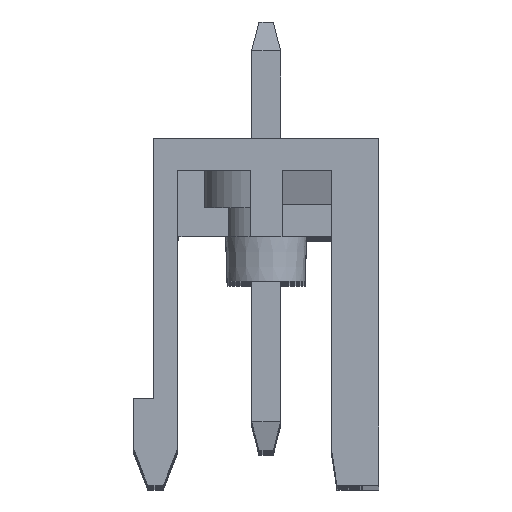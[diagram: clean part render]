
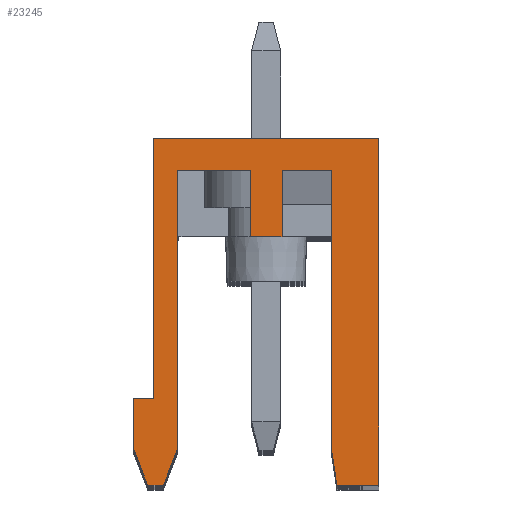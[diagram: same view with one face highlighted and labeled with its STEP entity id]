
A CAD part, top view. The second image highlights one B-rep face of the part: STEP entity #23245.
In plain terms, the highlighted planar face has unit normal (0, 0, 1).
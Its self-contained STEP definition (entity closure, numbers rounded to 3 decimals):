
#40 = EDGE_CURVE ( 'NONE', #36536, #26449, #12586, .T. ) ;
#225 = CARTESIAN_POINT ( 'NONE',  ( 2.25, 1.3, 96.52 ) ) ;
#302 = LINE ( 'NONE', #7707, #20076 ) ;
#471 = DIRECTION ( 'NONE',  ( 0.152, -0.988, 0. ) ) ;
#695 = VERTEX_POINT ( 'NONE', #18664 ) ;
#1106 = DIRECTION ( 'NONE',  ( -0.359, -0.933, 0. ) ) ;
#1792 = DIRECTION ( 'NONE',  ( 0., -1., 0. ) ) ;
#2024 = ORIENTED_EDGE ( 'NONE', *, *, #40, .T. ) ;
#2182 = CARTESIAN_POINT ( 'NONE',  ( -4.1, 0., 96.52 ) ) ;
#2399 = DIRECTION ( 'NONE',  ( 1., 0., 0. ) ) ;
#2482 = DIRECTION ( 'NONE',  ( 0., 1., 0. ) ) ;
#2691 = EDGE_CURVE ( 'NONE', #23012, #2864, #9895, .T. ) ;
#2864 = VERTEX_POINT ( 'NONE', #23689 ) ;
#3789 = ORIENTED_EDGE ( 'NONE', *, *, #33529, .F. ) ;
#3827 = CARTESIAN_POINT ( 'NONE',  ( 3.9, 12., 96.52 ) ) ;
#4197 = CARTESIAN_POINT ( 'NONE',  ( -4.1, 0., 96.52 ) ) ;
#5590 = LINE ( 'NONE', #15665, #36779 ) ;
#5631 = DIRECTION ( 'NONE',  ( 0., -1., 0. ) ) ;
#5689 = VECTOR ( 'NONE', #1106, 1000. ) ;
#5735 = VERTEX_POINT ( 'NONE', #14338 ) ;
#6214 = ORIENTED_EDGE ( 'NONE', *, *, #13710, .F. ) ;
#6219 = ORIENTED_EDGE ( 'NONE', *, *, #39183, .F. ) ;
#7013 = LINE ( 'NONE', #47021, #30613 ) ;
#7023 = ORIENTED_EDGE ( 'NONE', *, *, #43722, .T. ) ;
#7031 = ORIENTED_EDGE ( 'NONE', *, *, #47349, .T. ) ;
#7239 = DIRECTION ( 'NONE',  ( 1., 0., 0. ) ) ;
#7566 = PLANE ( 'NONE',  #46377 ) ;
#7707 = CARTESIAN_POINT ( 'NONE',  ( 2.45, 0., 96.52 ) ) ;
#7799 = CARTESIAN_POINT ( 'NONE',  ( -10.2, 16.267, 96.52 ) ) ;
#7801 = LINE ( 'NONE', #47099, #45058 ) ;
#7925 = ORIENTED_EDGE ( 'NONE', *, *, #11339, .F. ) ;
#8828 = VECTOR ( 'NONE', #2399, 1000. ) ;
#8916 = VERTEX_POINT ( 'NONE', #4197 ) ;
#8921 = ORIENTED_EDGE ( 'NONE', *, *, #46867, .T. ) ;
#9366 = DIRECTION ( 'NONE',  ( 0., 1., 0. ) ) ;
#9834 = CARTESIAN_POINT ( 'NONE',  ( 3.9, 0., 96.52 ) ) ;
#9894 = CARTESIAN_POINT ( 'NONE',  ( 2.45, 0., 96.52 ) ) ;
#9895 = LINE ( 'NONE', #10129, #31412 ) ;
#10129 = CARTESIAN_POINT ( 'NONE',  ( 0.55, 8.6, 96.52 ) ) ;
#10459 = VECTOR ( 'NONE', #16690, 1000. ) ;
#10744 = CARTESIAN_POINT ( 'NONE',  ( -4.6, 3., 96.52 ) ) ;
#10797 = VERTEX_POINT ( 'NONE', #37140 ) ;
#11088 = DIRECTION ( 'NONE',  ( -1., 0., 0. ) ) ;
#11339 = EDGE_CURVE ( 'NONE', #10797, #14514, #35546, .T. ) ;
#11423 = CARTESIAN_POINT ( 'NONE',  ( 2.25, 1.3, 96.52 ) ) ;
#12136 = CARTESIAN_POINT ( 'NONE',  ( -3.9, 12., 96.52 ) ) ;
#12586 = LINE ( 'NONE', #16187, #26663 ) ;
#12791 = LINE ( 'NONE', #38668, #20455 ) ;
#13482 = CARTESIAN_POINT ( 'NONE',  ( 3.9, 12., 96.52 ) ) ;
#13710 = EDGE_CURVE ( 'NONE', #23012, #695, #7801, .T. ) ;
#14028 = VERTEX_POINT ( 'NONE', #43213 ) ;
#14117 = LINE ( 'NONE', #9834, #26311 ) ;
#14338 = CARTESIAN_POINT ( 'NONE',  ( -3.9, 3., 96.52 ) ) ;
#14514 = VERTEX_POINT ( 'NONE', #37333 ) ;
#14877 = ORIENTED_EDGE ( 'NONE', *, *, #37813, .F. ) ;
#15665 = CARTESIAN_POINT ( 'NONE',  ( -0.55, 10.9, 96.52 ) ) ;
#16187 = CARTESIAN_POINT ( 'NONE',  ( 2.25, 10.9, 96.52 ) ) ;
#16201 = VERTEX_POINT ( 'NONE', #10744 ) ;
#16226 = ORIENTED_EDGE ( 'NONE', *, *, #2691, .T. ) ;
#16237 = EDGE_LOOP ( 'NONE', ( #46719, #28398, #7023, #36721, #8921, #14877, #16865, #3789, #7925, #6219, #7031, #6214, #16226, #36421, #2024, #30466, #31050 ) ) ;
#16690 = DIRECTION ( 'NONE',  ( 1., 0., 0. ) ) ;
#16865 = ORIENTED_EDGE ( 'NONE', *, *, #46976, .T. ) ;
#17967 = LINE ( 'NONE', #3827, #32274 ) ;
#18088 = VECTOR ( 'NONE', #42873, 1000. ) ;
#18664 = CARTESIAN_POINT ( 'NONE',  ( -0.55, 8.6, 96.52 ) ) ;
#18671 = VERTEX_POINT ( 'NONE', #13482 ) ;
#18970 = EDGE_CURVE ( 'NONE', #36510, #18671, #14117, .T. ) ;
#19537 = DIRECTION ( 'NONE',  ( 0., 0., 1. ) ) ;
#20076 = VECTOR ( 'NONE', #7239, 1000. ) ;
#20439 = DIRECTION ( 'NONE',  ( 0., -1., 0. ) ) ;
#20455 = VECTOR ( 'NONE', #1792, 1000. ) ;
#21263 = CARTESIAN_POINT ( 'NONE',  ( -0.55, 10.9, 96.52 ) ) ;
#23012 = VERTEX_POINT ( 'NONE', #31080 ) ;
#23116 = FACE_OUTER_BOUND ( 'NONE', #16237, .T. ) ;
#23245 = ADVANCED_FACE ( 'NONE', ( #23116 ), #7566, .T. ) ;
#23689 = CARTESIAN_POINT ( 'NONE',  ( 0.55, 10.9, 96.52 ) ) ;
#23724 = CARTESIAN_POINT ( 'NONE',  ( 2.25, 10.9, 96.52 ) ) ;
#24525 = CARTESIAN_POINT ( 'NONE',  ( -3.05, 10.9, 96.52 ) ) ;
#25627 = DIRECTION ( 'NONE',  ( -1., 0., 0. ) ) ;
#26311 = VECTOR ( 'NONE', #9366, 1000. ) ;
#26449 = VERTEX_POINT ( 'NONE', #11423 ) ;
#26585 = VECTOR ( 'NONE', #5631, 1000. ) ;
#26624 = CARTESIAN_POINT ( 'NONE',  ( 3.9, 0., 96.52 ) ) ;
#26663 = VECTOR ( 'NONE', #45170, 1000. ) ;
#26900 = LINE ( 'NONE', #40568, #39279 ) ;
#27461 = LINE ( 'NONE', #46379, #10459 ) ;
#27906 = EDGE_CURVE ( 'NONE', #5735, #16201, #7013, .T. ) ;
#28398 = ORIENTED_EDGE ( 'NONE', *, *, #31418, .T. ) ;
#28891 = DIRECTION ( 'NONE',  ( -1., 0., 0. ) ) ;
#29804 = VERTEX_POINT ( 'NONE', #30898 ) ;
#30466 = ORIENTED_EDGE ( 'NONE', *, *, #36746, .T. ) ;
#30539 = DIRECTION ( 'NONE',  ( 1., 0., 0. ) ) ;
#30613 = VECTOR ( 'NONE', #11088, 1000. ) ;
#30821 = DIRECTION ( 'NONE',  ( 0., -1., 0. ) ) ;
#30898 = CARTESIAN_POINT ( 'NONE',  ( -3.55, 0., 96.52 ) ) ;
#31050 = ORIENTED_EDGE ( 'NONE', *, *, #40645, .T. ) ;
#31080 = CARTESIAN_POINT ( 'NONE',  ( 0.55, 8.6, 96.52 ) ) ;
#31385 = LINE ( 'NONE', #39037, #8828 ) ;
#31412 = VECTOR ( 'NONE', #2482, 1000. ) ;
#31418 = EDGE_CURVE ( 'NONE', #18671, #31910, #17967, .T. ) ;
#31910 = VERTEX_POINT ( 'NONE', #12136 ) ;
#32274 = VECTOR ( 'NONE', #25627, 1000. ) ;
#33529 = EDGE_CURVE ( 'NONE', #14514, #29804, #40850, .T. ) ;
#33902 = CARTESIAN_POINT ( 'NONE',  ( -3.05, 1.3, 96.52 ) ) ;
#34994 = LINE ( 'NONE', #2182, #18088 ) ;
#35546 = LINE ( 'NONE', #24525, #26585 ) ;
#36421 = ORIENTED_EDGE ( 'NONE', *, *, #36681, .T. ) ;
#36510 = VERTEX_POINT ( 'NONE', #26624 ) ;
#36536 = VERTEX_POINT ( 'NONE', #23724 ) ;
#36681 = EDGE_CURVE ( 'NONE', #2864, #36536, #31385, .T. ) ;
#36721 = ORIENTED_EDGE ( 'NONE', *, *, #27906, .T. ) ;
#36746 = EDGE_CURVE ( 'NONE', #26449, #40460, #47168, .T. ) ;
#36779 = VECTOR ( 'NONE', #37691, 1000. ) ;
#37140 = CARTESIAN_POINT ( 'NONE',  ( -3.05, 10.9, 96.52 ) ) ;
#37333 = CARTESIAN_POINT ( 'NONE',  ( -3.05, 1.3, 96.52 ) ) ;
#37691 = DIRECTION ( 'NONE',  ( -1., 0., 0. ) ) ;
#37774 = CARTESIAN_POINT ( 'NONE',  ( -4.6, 3., 96.52 ) ) ;
#37813 = EDGE_CURVE ( 'NONE', #8916, #14028, #34994, .T. ) ;
#38668 = CARTESIAN_POINT ( 'NONE',  ( -0.55, 10.9, 96.52 ) ) ;
#39037 = CARTESIAN_POINT ( 'NONE',  ( 0.55, 10.9, 96.52 ) ) ;
#39183 = EDGE_CURVE ( 'NONE', #46726, #10797, #5590, .T. ) ;
#39279 = VECTOR ( 'NONE', #20439, 1000. ) ;
#40176 = VECTOR ( 'NONE', #471, 1000. ) ;
#40460 = VERTEX_POINT ( 'NONE', #9894 ) ;
#40568 = CARTESIAN_POINT ( 'NONE',  ( -3.9, 12., 96.52 ) ) ;
#40645 = EDGE_CURVE ( 'NONE', #40460, #36510, #302, .T. ) ;
#40850 = LINE ( 'NONE', #33902, #5689 ) ;
#42873 = DIRECTION ( 'NONE',  ( -0.359, 0.933, 0. ) ) ;
#43213 = CARTESIAN_POINT ( 'NONE',  ( -4.6, 1.3, 96.52 ) ) ;
#43722 = EDGE_CURVE ( 'NONE', #31910, #5735, #26900, .T. ) ;
#44478 = LINE ( 'NONE', #37774, #47174 ) ;
#45058 = VECTOR ( 'NONE', #28891, 1000. ) ;
#45170 = DIRECTION ( 'NONE',  ( 0., -1., 0. ) ) ;
#46377 = AXIS2_PLACEMENT_3D ( 'NONE', #7799, #19537, #30539 ) ;
#46379 = CARTESIAN_POINT ( 'NONE',  ( -4.1, 0., 96.52 ) ) ;
#46719 = ORIENTED_EDGE ( 'NONE', *, *, #18970, .T. ) ;
#46726 = VERTEX_POINT ( 'NONE', #21263 ) ;
#46867 = EDGE_CURVE ( 'NONE', #16201, #14028, #44478, .T. ) ;
#46976 = EDGE_CURVE ( 'NONE', #8916, #29804, #27461, .T. ) ;
#47021 = CARTESIAN_POINT ( 'NONE',  ( -3.9, 3., 96.52 ) ) ;
#47099 = CARTESIAN_POINT ( 'NONE',  ( 0.55, 8.6, 96.52 ) ) ;
#47168 = LINE ( 'NONE', #225, #40176 ) ;
#47174 = VECTOR ( 'NONE', #30821, 1000. ) ;
#47349 = EDGE_CURVE ( 'NONE', #46726, #695, #12791, .T. ) ;
